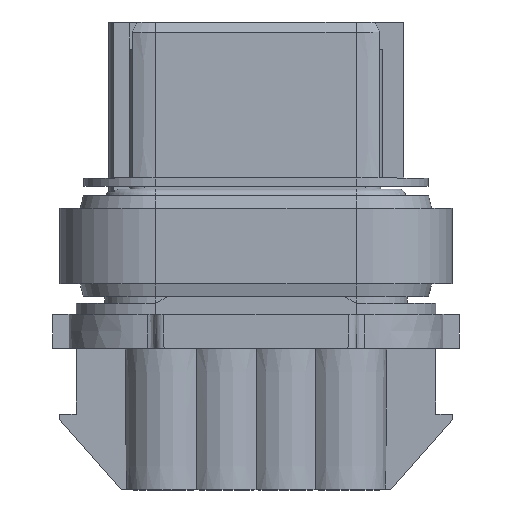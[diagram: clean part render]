
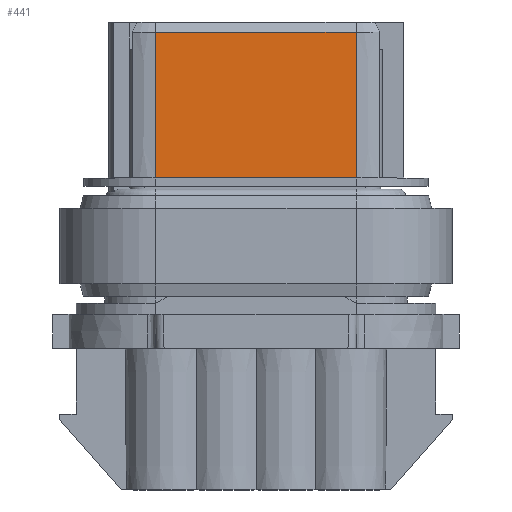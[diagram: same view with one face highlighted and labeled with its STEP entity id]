
A CAD part, front view. The second image highlights one B-rep face of the part: STEP entity #441.
In plain terms, the highlighted planar face has unit normal (0, -1, 0.009).
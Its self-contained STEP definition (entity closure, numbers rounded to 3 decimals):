
#441=ADVANCED_FACE('',(#797),#594,.T.);
#594=PLANE('',#4515);
#797=FACE_OUTER_BOUND('',#1028,.T.);
#1028=EDGE_LOOP('',(#2274,#2275,#2276,#2277));
#2274=ORIENTED_EDGE('',*,*,#3353,.F.);
#2275=ORIENTED_EDGE('',*,*,#3344,.T.);
#2276=ORIENTED_EDGE('',*,*,#3352,.F.);
#2277=ORIENTED_EDGE('',*,*,#3168,.F.);
#2655=VERTEX_POINT('',#6781);
#2656=VERTEX_POINT('',#6783);
#2776=VERTEX_POINT('',#7176);
#2777=VERTEX_POINT('',#7177);
#3168=EDGE_CURVE('',#2655,#2656,#3600,.T.);
#3344=EDGE_CURVE('',#2776,#2777,#3754,.T.);
#3352=EDGE_CURVE('',#2656,#2777,#3761,.T.);
#3353=EDGE_CURVE('',#2776,#2655,#3762,.T.);
#3600=LINE('',#6782,#4002);
#3754=LINE('',#7175,#4156);
#3761=LINE('',#7192,#4163);
#3762=LINE('',#7194,#4164);
#4002=VECTOR('',#5259,1.);
#4156=VECTOR('',#5551,1.);
#4163=VECTOR('',#5574,1.);
#4164=VECTOR('',#5577,1.);
#4515=AXIS2_PLACEMENT_3D('',#7195,#5578,#5579);
#5259=DIRECTION('',(-1.,0.,0.));
#5551=DIRECTION('',(-1.,0.,0.));
#5574=DIRECTION('',(0.,0.009,1.));
#5577=DIRECTION('',(0.,-0.009,-1.));
#5578=DIRECTION('',(0.,-1.,0.009));
#5579=DIRECTION('',(0.,0.009,1.));
#6781=CARTESIAN_POINT('',(5.898,-3.051,-1.45));
#6782=CARTESIAN_POINT('',(-1.752,-3.051,-1.45));
#6783=CARTESIAN_POINT('',(-5.902,-3.051,-1.45));
#7175=CARTESIAN_POINT('',(-1.752,-2.976,7.15));
#7176=CARTESIAN_POINT('',(5.898,-2.976,7.15));
#7177=CARTESIAN_POINT('',(-5.902,-2.976,7.15));
#7192=CARTESIAN_POINT('',(-5.902,-3.051,-1.45));
#7194=CARTESIAN_POINT('',(5.898,-3.051,-1.45));
#7195=CARTESIAN_POINT('',(-1.752,-3.051,-1.45));
